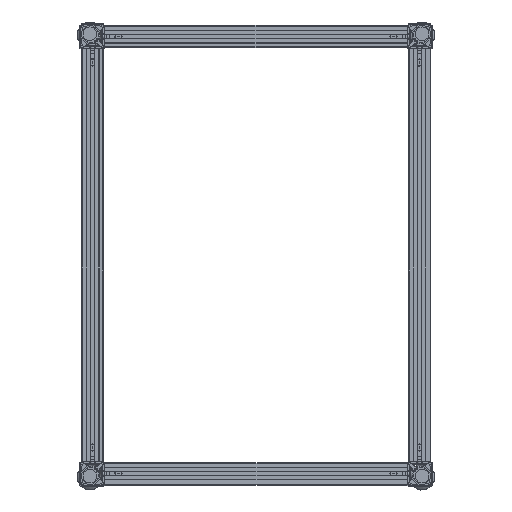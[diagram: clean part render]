
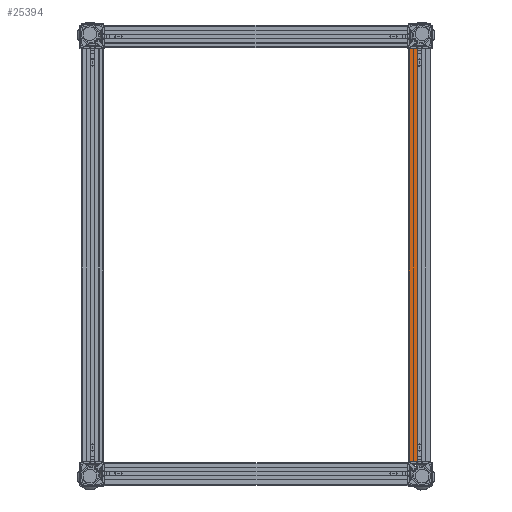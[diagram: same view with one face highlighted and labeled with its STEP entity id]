
A CAD part, top view. The second image highlights one B-rep face of the part: STEP entity #25394.
In plain terms, the highlighted planar face has unit normal (0, 0, 1) as drawn and (0, 1, 0) by its records, which use the part's own axes.
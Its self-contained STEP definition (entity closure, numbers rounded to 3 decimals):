
#721=PLANE('',#27580);
#1755=LINE('',#38016,#3931);
#1784=LINE('',#38110,#3960);
#1860=LINE('',#38336,#4036);
#1861=LINE('',#38338,#4037);
#3931=VECTOR('',#30298,1000.);
#3960=VECTOR('',#30347,1000.);
#4036=VECTOR('',#30527,1000.);
#4037=VECTOR('',#30528,1000.);
#6307=ORIENTED_EDGE('',*,*,#13908,.T.);
#6308=ORIENTED_EDGE('',*,*,#13872,.F.);
#6309=ORIENTED_EDGE('',*,*,#14008,.T.);
#6310=ORIENTED_EDGE('',*,*,#14009,.T.);
#13872=EDGE_CURVE('',#17753,#17754,#1755,.T.);
#13908=EDGE_CURVE('',#17787,#17754,#1784,.T.);
#14008=EDGE_CURVE('',#17753,#17861,#1860,.T.);
#14009=EDGE_CURVE('',#17861,#17787,#1861,.T.);
#17753=VERTEX_POINT('',#38015);
#17754=VERTEX_POINT('',#38017);
#17787=VERTEX_POINT('',#38111);
#17861=VERTEX_POINT('',#38337);
#21522=EDGE_LOOP('',(#6307,#6308,#6309,#6310));
#23150=FACE_BOUND('',#21522,.T.);
#25394=ADVANCED_FACE('',(#23150),#721,.T.);
#27580=AXIS2_PLACEMENT_3D('',#38335,#30525,#30526);
#30298=DIRECTION('',(0.,0.,1.));
#30347=DIRECTION('',(1.,0.,0.));
#30525=DIRECTION('',(0.,1.,0.));
#30526=DIRECTION('',(1.,0.,0.));
#30527=DIRECTION('',(-1.,0.,0.));
#30528=DIRECTION('',(0.,0.,1.));
#38015=CARTESIAN_POINT('',(39.,40.,0.));
#38016=CARTESIAN_POINT('',(39.,40.,-1.));
#38017=CARTESIAN_POINT('',(39.,40.,750.));
#38110=CARTESIAN_POINT('',(9.5,40.,750.));
#38111=CARTESIAN_POINT('',(24.,40.,750.));
#38335=CARTESIAN_POINT('',(24.,40.,-1.));
#38336=CARTESIAN_POINT('',(9.5,40.,0.));
#38337=CARTESIAN_POINT('',(24.,40.,0.));
#38338=CARTESIAN_POINT('',(24.,40.,-1.));
